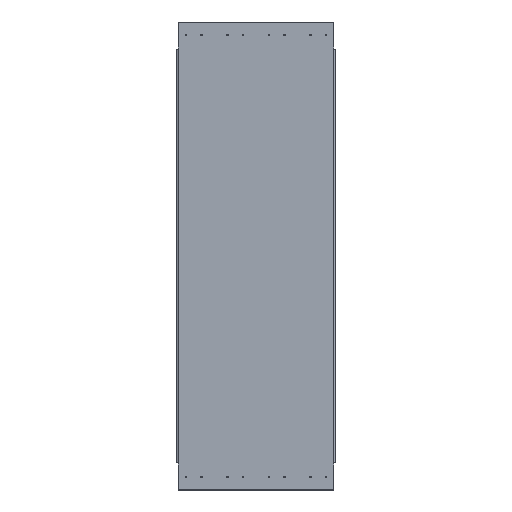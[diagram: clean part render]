
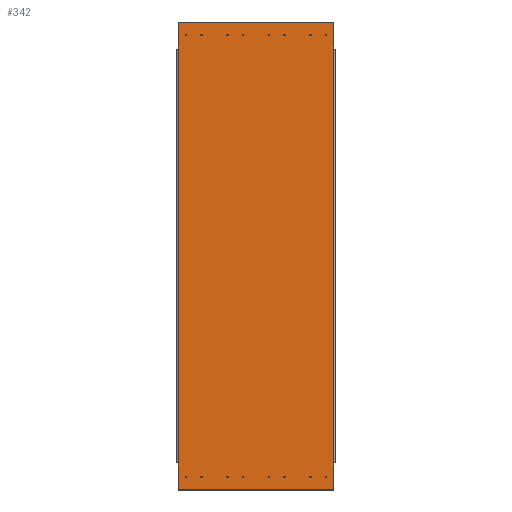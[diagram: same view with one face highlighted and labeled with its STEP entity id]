
A CAD part, top view. The second image highlights one B-rep face of the part: STEP entity #342.
In plain terms, the highlighted planar face has unit normal (0, 0, 1).
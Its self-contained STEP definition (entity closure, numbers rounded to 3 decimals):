
#59=CARTESIAN_POINT('',(1580.,193.5,567.5));
#60=DIRECTION('',(-0.,-0.,1.));
#61=DIRECTION('',(0.,1.,0.));
#62=AXIS2_PLACEMENT_3D('',#59,#60,#61);
#63=PLANE('',#62);
#64=CARTESIAN_POINT('',(1590.,230.9,567.5));
#65=VERTEX_POINT('',#64);
#66=CARTESIAN_POINT('',(1590.,233.5,567.5));
#67=DIRECTION('',(-0.,-0.,1.));
#68=DIRECTION('',(0.,-1.,-0.));
#69=AXIS2_PLACEMENT_3D('',#66,#67,#68);
#70=CIRCLE('',#69,2.6);
#71=EDGE_CURVE('',#65,#65,#70,.T.);
#72=ORIENTED_EDGE('',*,*,#71,.F.);
#73=EDGE_LOOP('',(#72));
#74=FACE_BOUND('',#73,.T.);
#75=CARTESIAN_POINT('',(1530.,230.9,567.5));
#76=VERTEX_POINT('',#75);
#77=CARTESIAN_POINT('',(1530.,233.5,567.5));
#78=DIRECTION('',(-0.,-0.,1.));
#79=DIRECTION('',(0.,-1.,-0.));
#80=AXIS2_PLACEMENT_3D('',#77,#78,#79);
#81=CIRCLE('',#80,2.6);
#82=EDGE_CURVE('',#76,#76,#81,.T.);
#83=ORIENTED_EDGE('',*,*,#82,.F.);
#84=EDGE_LOOP('',(#83));
#85=FACE_BOUND('',#84,.T.);
#86=CARTESIAN_POINT('',(1430.,230.9,567.5));
#87=VERTEX_POINT('',#86);
#88=CARTESIAN_POINT('',(1430.,233.5,567.5));
#89=DIRECTION('',(-0.,-0.,1.));
#90=DIRECTION('',(0.,-1.,-0.));
#91=AXIS2_PLACEMENT_3D('',#88,#89,#90);
#92=CIRCLE('',#91,2.6);
#93=EDGE_CURVE('',#87,#87,#92,.T.);
#94=ORIENTED_EDGE('',*,*,#93,.F.);
#95=EDGE_LOOP('',(#94));
#96=FACE_BOUND('',#95,.T.);
#97=CARTESIAN_POINT('',(1370.,230.9,567.5));
#98=VERTEX_POINT('',#97);
#99=CARTESIAN_POINT('',(1370.,233.5,567.5));
#100=DIRECTION('',(-0.,-0.,1.));
#101=DIRECTION('',(0.,-1.,-0.));
#102=AXIS2_PLACEMENT_3D('',#99,#100,#101);
#103=CIRCLE('',#102,2.6);
#104=EDGE_CURVE('',#98,#98,#103,.T.);
#105=ORIENTED_EDGE('',*,*,#104,.F.);
#106=EDGE_LOOP('',(#105));
#107=FACE_BOUND('',#106,.T.);
#108=CARTESIAN_POINT('',(1270.,230.9,567.5));
#109=VERTEX_POINT('',#108);
#110=CARTESIAN_POINT('',(1270.,233.5,567.5));
#111=DIRECTION('',(-0.,-0.,1.));
#112=DIRECTION('',(0.,-1.,-0.));
#113=AXIS2_PLACEMENT_3D('',#110,#111,#112);
#114=CIRCLE('',#113,2.6);
#115=EDGE_CURVE('',#109,#109,#114,.T.);
#116=ORIENTED_EDGE('',*,*,#115,.F.);
#117=EDGE_LOOP('',(#116));
#118=FACE_BOUND('',#117,.T.);
#119=CARTESIAN_POINT('',(1210.,230.9,567.5));
#120=VERTEX_POINT('',#119);
#121=CARTESIAN_POINT('',(1210.,233.5,567.5));
#122=DIRECTION('',(-0.,-0.,1.));
#123=DIRECTION('',(0.,-1.,-0.));
#124=AXIS2_PLACEMENT_3D('',#121,#122,#123);
#125=CIRCLE('',#124,2.6);
#126=EDGE_CURVE('',#120,#120,#125,.T.);
#127=ORIENTED_EDGE('',*,*,#126,.F.);
#128=EDGE_LOOP('',(#127));
#129=FACE_BOUND('',#128,.T.);
#130=CARTESIAN_POINT('',(1110.,230.9,567.5));
#131=VERTEX_POINT('',#130);
#132=CARTESIAN_POINT('',(1110.,233.5,567.5));
#133=DIRECTION('',(-0.,-0.,1.));
#134=DIRECTION('',(0.,-1.,-0.));
#135=AXIS2_PLACEMENT_3D('',#132,#133,#134);
#136=CIRCLE('',#135,2.6);
#137=EDGE_CURVE('',#131,#131,#136,.T.);
#138=ORIENTED_EDGE('',*,*,#137,.F.);
#139=EDGE_LOOP('',(#138));
#140=FACE_BOUND('',#139,.T.);
#141=CARTESIAN_POINT('',(1050.,230.9,567.5));
#142=VERTEX_POINT('',#141);
#143=CARTESIAN_POINT('',(1050.,233.5,567.5));
#144=DIRECTION('',(-0.,-0.,1.));
#145=DIRECTION('',(0.,-1.,-0.));
#146=AXIS2_PLACEMENT_3D('',#143,#144,#145);
#147=CIRCLE('',#146,2.6);
#148=EDGE_CURVE('',#142,#142,#147,.T.);
#149=ORIENTED_EDGE('',*,*,#148,.F.);
#150=EDGE_LOOP('',(#149));
#151=FACE_BOUND('',#150,.T.);
#152=CARTESIAN_POINT('',(1270.,1930.9,567.5));
#153=VERTEX_POINT('',#152);
#154=CARTESIAN_POINT('',(1270.,1933.5,567.5));
#155=DIRECTION('',(-0.,-0.,1.));
#156=DIRECTION('',(0.,-1.,-0.));
#157=AXIS2_PLACEMENT_3D('',#154,#155,#156);
#158=CIRCLE('',#157,2.6);
#159=EDGE_CURVE('',#153,#153,#158,.T.);
#160=ORIENTED_EDGE('',*,*,#159,.F.);
#161=EDGE_LOOP('',(#160));
#162=FACE_BOUND('',#161,.T.);
#163=CARTESIAN_POINT('',(1050.,1930.9,567.5));
#164=VERTEX_POINT('',#163);
#165=CARTESIAN_POINT('',(1050.,1933.5,567.5));
#166=DIRECTION('',(-0.,-0.,1.));
#167=DIRECTION('',(0.,-1.,-0.));
#168=AXIS2_PLACEMENT_3D('',#165,#166,#167);
#169=CIRCLE('',#168,2.6);
#170=EDGE_CURVE('',#164,#164,#169,.T.);
#171=ORIENTED_EDGE('',*,*,#170,.F.);
#172=EDGE_LOOP('',(#171));
#173=FACE_BOUND('',#172,.T.);
#174=CARTESIAN_POINT('',(1210.,1930.9,567.5));
#175=VERTEX_POINT('',#174);
#176=CARTESIAN_POINT('',(1210.,1933.5,567.5));
#177=DIRECTION('',(-0.,-0.,1.));
#178=DIRECTION('',(0.,-1.,-0.));
#179=AXIS2_PLACEMENT_3D('',#176,#177,#178);
#180=CIRCLE('',#179,2.6);
#181=EDGE_CURVE('',#175,#175,#180,.T.);
#182=ORIENTED_EDGE('',*,*,#181,.F.);
#183=EDGE_LOOP('',(#182));
#184=FACE_BOUND('',#183,.T.);
#185=CARTESIAN_POINT('',(1110.,1930.9,567.5));
#186=VERTEX_POINT('',#185);
#187=CARTESIAN_POINT('',(1110.,1933.5,567.5));
#188=DIRECTION('',(-0.,-0.,1.));
#189=DIRECTION('',(0.,-1.,-0.));
#190=AXIS2_PLACEMENT_3D('',#187,#188,#189);
#191=CIRCLE('',#190,2.6);
#192=EDGE_CURVE('',#186,#186,#191,.T.);
#193=ORIENTED_EDGE('',*,*,#192,.F.);
#194=EDGE_LOOP('',(#193));
#195=FACE_BOUND('',#194,.T.);
#196=CARTESIAN_POINT('',(1590.,1930.9,567.5));
#197=VERTEX_POINT('',#196);
#198=CARTESIAN_POINT('',(1590.,1933.5,567.5));
#199=DIRECTION('',(-0.,-0.,1.));
#200=DIRECTION('',(0.,-1.,-0.));
#201=AXIS2_PLACEMENT_3D('',#198,#199,#200);
#202=CIRCLE('',#201,2.6);
#203=EDGE_CURVE('',#197,#197,#202,.T.);
#204=ORIENTED_EDGE('',*,*,#203,.F.);
#205=EDGE_LOOP('',(#204));
#206=FACE_BOUND('',#205,.T.);
#207=CARTESIAN_POINT('',(1530.,1930.9,567.5));
#208=VERTEX_POINT('',#207);
#209=CARTESIAN_POINT('',(1530.,1933.5,567.5));
#210=DIRECTION('',(-0.,-0.,1.));
#211=DIRECTION('',(0.,-1.,-0.));
#212=AXIS2_PLACEMENT_3D('',#209,#210,#211);
#213=CIRCLE('',#212,2.6);
#214=EDGE_CURVE('',#208,#208,#213,.T.);
#215=ORIENTED_EDGE('',*,*,#214,.F.);
#216=EDGE_LOOP('',(#215));
#217=FACE_BOUND('',#216,.T.);
#218=CARTESIAN_POINT('',(1370.,1930.9,567.5));
#219=VERTEX_POINT('',#218);
#220=CARTESIAN_POINT('',(1370.,1933.5,567.5));
#221=DIRECTION('',(-0.,-0.,1.));
#222=DIRECTION('',(0.,-1.,-0.));
#223=AXIS2_PLACEMENT_3D('',#220,#221,#222);
#224=CIRCLE('',#223,2.6);
#225=EDGE_CURVE('',#219,#219,#224,.T.);
#226=ORIENTED_EDGE('',*,*,#225,.F.);
#227=EDGE_LOOP('',(#226));
#228=FACE_BOUND('',#227,.T.);
#229=CARTESIAN_POINT('',(1430.,1930.9,567.5));
#230=VERTEX_POINT('',#229);
#231=CARTESIAN_POINT('',(1430.,1933.5,567.5));
#232=DIRECTION('',(-0.,-0.,1.));
#233=DIRECTION('',(0.,-1.,-0.));
#234=AXIS2_PLACEMENT_3D('',#231,#232,#233);
#235=CIRCLE('',#234,2.6);
#236=EDGE_CURVE('',#230,#230,#235,.T.);
#237=ORIENTED_EDGE('',*,*,#236,.F.);
#238=EDGE_LOOP('',(#237));
#239=FACE_BOUND('',#238,.T.);
#240=CARTESIAN_POINT('',(1020.,1879.5,567.5));
#241=VERTEX_POINT('',#240);
#242=CARTESIAN_POINT('',(1020.,1982.5,567.5));
#243=VERTEX_POINT('',#242);
#244=CARTESIAN_POINT('',(1020.,1879.5,567.5));
#245=DIRECTION('',(0.,1.,0.));
#246=VECTOR('',#245,103.);
#247=LINE('',#244,#246);
#248=EDGE_CURVE('',#241,#243,#247,.T.);
#249=ORIENTED_EDGE('',*,*,#248,.F.);
#250=CARTESIAN_POINT('',(1020.,287.5,567.5));
#251=VERTEX_POINT('',#250);
#252=CARTESIAN_POINT('',(1020.,1879.5,567.5));
#253=DIRECTION('',(-0.,-1.,-0.));
#254=VECTOR('',#253,1592.);
#255=LINE('',#252,#254);
#256=EDGE_CURVE('',#241,#251,#255,.T.);
#257=ORIENTED_EDGE('',*,*,#256,.T.);
#258=CARTESIAN_POINT('',(1020.,184.5,567.5));
#259=VERTEX_POINT('',#258);
#260=CARTESIAN_POINT('',(1020.,287.5,567.5));
#261=DIRECTION('',(0.,-1.,-0.));
#262=VECTOR('',#261,103.);
#263=LINE('',#260,#262);
#264=EDGE_CURVE('',#251,#259,#263,.T.);
#265=ORIENTED_EDGE('',*,*,#264,.T.);
#266=CARTESIAN_POINT('',(1021.,183.5,567.5));
#267=VERTEX_POINT('',#266);
#268=CARTESIAN_POINT('',(1021.,184.5,567.5));
#269=DIRECTION('',(-0.,-0.,1.));
#270=DIRECTION('',(0.,-1.,-0.));
#271=AXIS2_PLACEMENT_3D('',#268,#269,#270);
#272=CIRCLE('',#271,1.);
#273=EDGE_CURVE('',#259,#267,#272,.T.);
#274=ORIENTED_EDGE('',*,*,#273,.T.);
#275=CARTESIAN_POINT('',(1619.,183.5,567.5));
#276=VERTEX_POINT('',#275);
#277=CARTESIAN_POINT('',(1619.,183.5,567.5));
#278=DIRECTION('',(-1.,0.,0.));
#279=VECTOR('',#278,598.);
#280=LINE('',#277,#279);
#281=EDGE_CURVE('',#276,#267,#280,.T.);
#282=ORIENTED_EDGE('',*,*,#281,.F.);
#283=CARTESIAN_POINT('',(1620.,184.5,567.5));
#284=VERTEX_POINT('',#283);
#285=CARTESIAN_POINT('',(1619.,184.5,567.5));
#286=DIRECTION('',(-0.,-0.,1.));
#287=DIRECTION('',(0.,-1.,-0.));
#288=AXIS2_PLACEMENT_3D('',#285,#286,#287);
#289=CIRCLE('',#288,1.);
#290=EDGE_CURVE('',#276,#284,#289,.T.);
#291=ORIENTED_EDGE('',*,*,#290,.T.);
#292=CARTESIAN_POINT('',(1620.,287.5,567.5));
#293=VERTEX_POINT('',#292);
#294=CARTESIAN_POINT('',(1620.,287.5,567.5));
#295=DIRECTION('',(0.,-1.,-0.));
#296=VECTOR('',#295,103.);
#297=LINE('',#294,#296);
#298=EDGE_CURVE('',#293,#284,#297,.T.);
#299=ORIENTED_EDGE('',*,*,#298,.F.);
#300=CARTESIAN_POINT('',(1620.,1879.5,567.5));
#301=VERTEX_POINT('',#300);
#302=CARTESIAN_POINT('',(1620.,287.5,567.5));
#303=DIRECTION('',(0.,1.,0.));
#304=VECTOR('',#303,1592.);
#305=LINE('',#302,#304);
#306=EDGE_CURVE('',#293,#301,#305,.T.);
#307=ORIENTED_EDGE('',*,*,#306,.T.);
#308=CARTESIAN_POINT('',(1620.,1982.5,567.5));
#309=VERTEX_POINT('',#308);
#310=CARTESIAN_POINT('',(1620.,1879.5,567.5));
#311=DIRECTION('',(0.,1.,0.));
#312=VECTOR('',#311,103.);
#313=LINE('',#310,#312);
#314=EDGE_CURVE('',#301,#309,#313,.T.);
#315=ORIENTED_EDGE('',*,*,#314,.T.);
#316=CARTESIAN_POINT('',(1619.,1983.5,567.5));
#317=VERTEX_POINT('',#316);
#318=CARTESIAN_POINT('',(1619.,1982.5,567.5));
#319=DIRECTION('',(-0.,-0.,1.));
#320=DIRECTION('',(0.,-1.,-0.));
#321=AXIS2_PLACEMENT_3D('',#318,#319,#320);
#322=CIRCLE('',#321,1.);
#323=EDGE_CURVE('',#309,#317,#322,.T.);
#324=ORIENTED_EDGE('',*,*,#323,.T.);
#325=CARTESIAN_POINT('',(1021.,1983.5,567.5));
#326=VERTEX_POINT('',#325);
#327=CARTESIAN_POINT('',(1619.,1983.5,567.5));
#328=DIRECTION('',(-1.,0.,0.));
#329=VECTOR('',#328,598.);
#330=LINE('',#327,#329);
#331=EDGE_CURVE('',#317,#326,#330,.T.);
#332=ORIENTED_EDGE('',*,*,#331,.T.);
#333=CARTESIAN_POINT('',(1021.,1982.5,567.5));
#334=DIRECTION('',(-0.,-0.,1.));
#335=DIRECTION('',(0.,-1.,-0.));
#336=AXIS2_PLACEMENT_3D('',#333,#334,#335);
#337=CIRCLE('',#336,1.);
#338=EDGE_CURVE('',#326,#243,#337,.T.);
#339=ORIENTED_EDGE('',*,*,#338,.T.);
#340=EDGE_LOOP('',(#249,#257,#265,#274,#282,#291,#299,#307,#315,#324,#332,#339));
#341=FACE_BOUND('',#340,.T.);
#342=ADVANCED_FACE('',(#74,#85,#96,#107,#118,#129,#140,#151,#162,#173,#184,#195,#206,#217,#228,#239,#341),#63,.T.);
